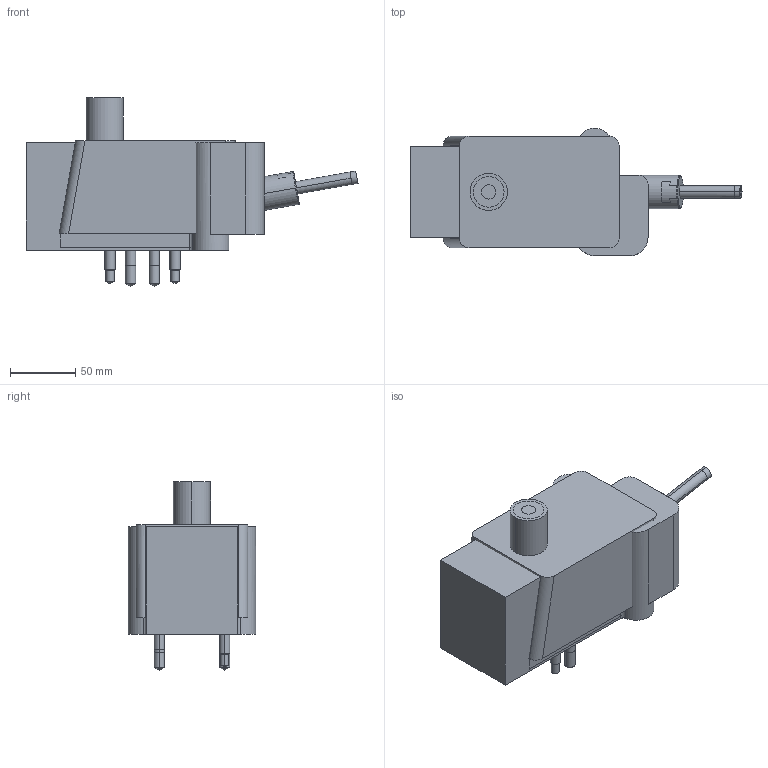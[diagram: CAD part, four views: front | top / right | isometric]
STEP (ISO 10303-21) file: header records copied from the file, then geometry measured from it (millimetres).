
FILE_DESCRIPTION((' '),'2;1');
FILE_NAME( 'EZ-10-S-L.stp', '2023-11-30T09:14:39', (' '), ('--- Datakit www.datakit.com---'), ' Datakit CrossCadWare V2020.4 Oct 21 2020', 'Export from SolidLink (Hexagon Production Software)', ' ');
FILE_SCHEMA(('AP242_MANAGED_MODEL_BASED_3D_ENGINEERING_MIM_LF { 1 0 10303 442 1 1 4 }'));
Length unit declared in the file: millimetre
Products named in the file (133): Workplanes; 1701283404; 1701203644; 1701203454; 1700493114; 1679434259; 1679434260; 1679434263; 1679434266; 1679434267; 1679434279; 1679434282; 1679434287; 1679434288; 1679434289; 1679434290; 1679434291; 1700503811; 1700841060; 1701354603; 1701354604; 1701354605; 1701354606; 1701354607; 1701354608; 1701354609; 1701354610; 1701354611; 1701354612; 1701354613; 1701354614; 1701354615; 1701354616; 1701354617; 1701354618; 1701354619; 1701354620; 1701354621; 1701354622; 1701354623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
Bounding box: 254.75 x 97.75 x 144.89 mm (x, y, z)
Volume: 2615489.2 mm3; surface area: 232504.5 mm2
Topology: 17 solids, 18 shells, 439 faces, 1272 edges, 1092 vertices
Faces by surface type: cylinder 178, plane 153, cone 96, sphere 6, torus 4, bspline 2
Entity records: 17798 total; most frequent: CARTESIAN_POINT 4599, DIRECTION 2646, ORIENTED_EDGE 2074, AXIS2_PLACEMENT_3D 1045, EDGE_CURVE 1043, VERTEX_POINT 670, VECTOR 556, LINE 556
